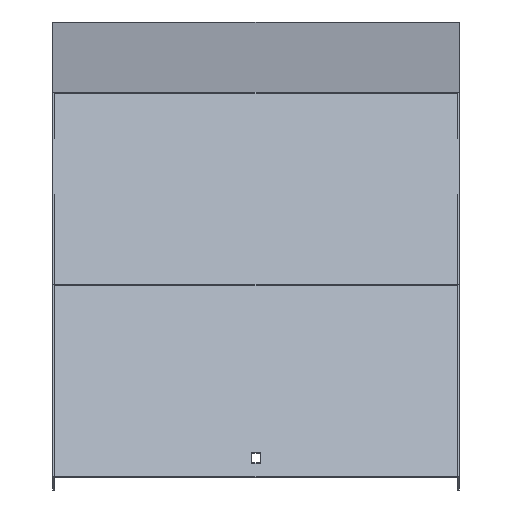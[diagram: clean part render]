
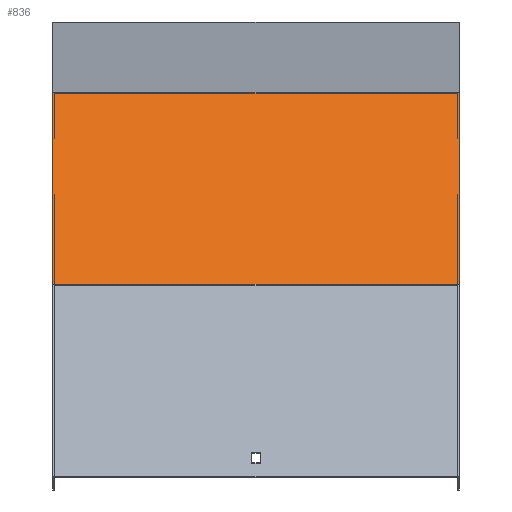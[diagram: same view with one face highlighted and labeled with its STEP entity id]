
A CAD part, top view. The second image highlights one B-rep face of the part: STEP entity #836.
In plain terms, the highlighted planar face has unit normal (0, 0.707, 0.707).
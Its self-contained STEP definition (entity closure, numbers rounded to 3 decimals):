
#3 = LINE ( 'NONE', #615, #676 ) ;
#33 = DIRECTION ( 'NONE',  ( 0., -0.707, -0.707 ) ) ;
#88 = LINE ( 'NONE', #395, #267 ) ;
#120 = ORIENTED_EDGE ( 'NONE', *, *, #921, .T. ) ;
#121 = CARTESIAN_POINT ( 'NONE',  ( 151.5, -32.538, 361.708 ) ) ;
#124 = VECTOR ( 'NONE', #494, 1000. ) ;
#153 = EDGE_CURVE ( 'NONE', #756, #552, #3, .T. ) ;
#167 = EDGE_CURVE ( 'NONE', #756, #575, #199, .T. ) ;
#199 = LINE ( 'NONE', #339, #124 ) ;
#206 = CARTESIAN_POINT ( 'NONE',  ( -151.5, -36.328, 365.498 ) ) ;
#248 = CARTESIAN_POINT ( 'NONE',  ( 151.5, -176.075, 505.245 ) ) ;
#261 = VERTEX_POINT ( 'NONE', #580 ) ;
#267 = VECTOR ( 'NONE', #930, 1000. ) ;
#272 = PLANE ( 'NONE',  #343 ) ;
#339 = CARTESIAN_POINT ( 'NONE',  ( 151.5, -36.328, 365.498 ) ) ;
#343 = AXIS2_PLACEMENT_3D ( 'NONE', #420, #33, #946 ) ;
#349 = CARTESIAN_POINT ( 'NONE',  ( -151.5, -32.538, 361.708 ) ) ;
#395 = CARTESIAN_POINT ( 'NONE',  ( 151.5, -176.075, 505.245 ) ) ;
#420 = CARTESIAN_POINT ( 'NONE',  ( 151.5, -36.328, 365.498 ) ) ;
#435 = ORIENTED_EDGE ( 'NONE', *, *, #167, .F. ) ;
#460 = ORIENTED_EDGE ( 'NONE', *, *, #482, .F. ) ;
#470 = EDGE_LOOP ( 'NONE', ( #120, #460, #435, #875 ) ) ;
#482 = EDGE_CURVE ( 'NONE', #575, #261, #88, .T. ) ;
#494 = DIRECTION ( 'NONE',  ( 0., -0.707, 0.707 ) ) ;
#552 = VERTEX_POINT ( 'NONE', #349 ) ;
#575 = VERTEX_POINT ( 'NONE', #248 ) ;
#580 = CARTESIAN_POINT ( 'NONE',  ( -151.5, -176.075, 505.245 ) ) ;
#615 = CARTESIAN_POINT ( 'NONE',  ( 151.5, -32.538, 361.708 ) ) ;
#676 = VECTOR ( 'NONE', #916, 1000. ) ;
#756 = VERTEX_POINT ( 'NONE', #121 ) ;
#836 = ADVANCED_FACE ( 'NONE', ( #868 ), #272, .F. ) ;
#868 = FACE_OUTER_BOUND ( 'NONE', #470, .T. ) ;
#875 = ORIENTED_EDGE ( 'NONE', *, *, #153, .T. ) ;
#896 = LINE ( 'NONE', #206, #919 ) ;
#916 = DIRECTION ( 'NONE',  ( -1., 0., 0. ) ) ;
#919 = VECTOR ( 'NONE', #969, 1000. ) ;
#921 = EDGE_CURVE ( 'NONE', #552, #261, #896, .T. ) ;
#930 = DIRECTION ( 'NONE',  ( -1., 0., 0. ) ) ;
#946 = DIRECTION ( 'NONE',  ( 0., 0.707, -0.707 ) ) ;
#969 = DIRECTION ( 'NONE',  ( 0., -0.707, 0.707 ) ) ;
